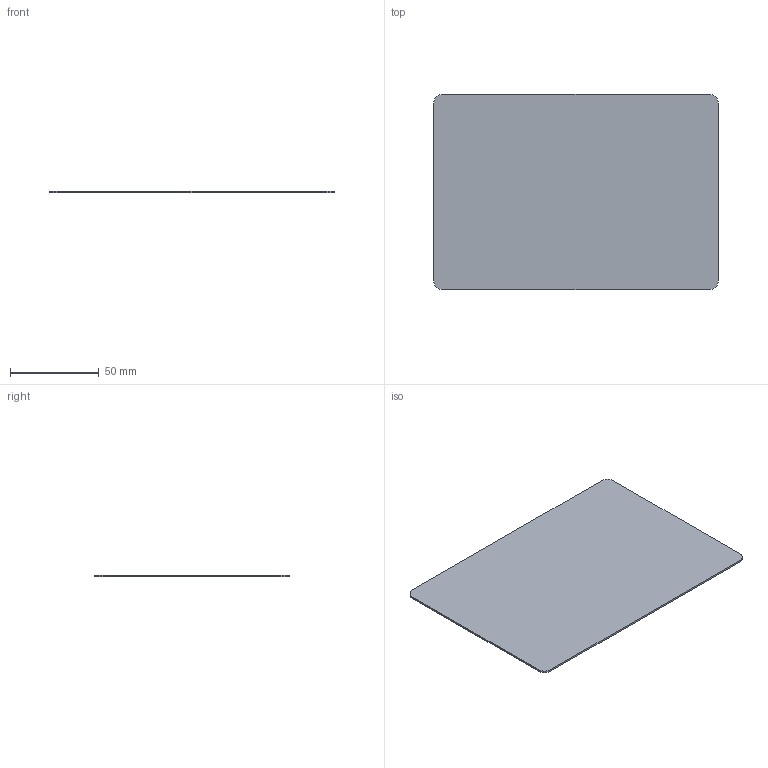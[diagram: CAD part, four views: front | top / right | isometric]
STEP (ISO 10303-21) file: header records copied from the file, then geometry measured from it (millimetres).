
FILE_DESCRIPTION(('FreeCAD Model'),'2;1');
FILE_NAME('Open CASCADE Shape Model','2026-10-19T19:41:49',('FreeCAD'),( 'FreeCAD'),'Open CASCADE STEP processor 7.8','FreeCAD','Unknown');
FILE_SCHEMA(('AUTOMOTIVE_DESIGN { 1 0 10303 214 1 1 1 1 }'));
Length unit declared in the file: millimetre
Products named in the file (1): Open CASCADE STEP translator 7.8 5
Bounding box: 160 x 110 x 1 mm (x, y, z)
Volume: 17578.5 mm3; surface area: 35688.5 mm2
Topology: 1 solids, 1 shells, 10 faces, 24 edges, 16 vertices
Faces by surface type: plane 6, cylinder 4
Entity records: 306 total; most frequent: DIRECTION 54, CARTESIAN_POINT 51, ORIENTED_EDGE 48, EDGE_CURVE 24, AXIS2_PLACEMENT_3D 19, VERTEX_POINT 16, LINE 16, VECTOR 16
